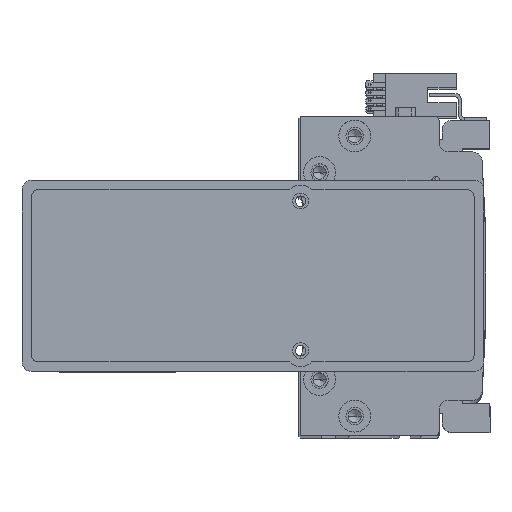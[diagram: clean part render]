
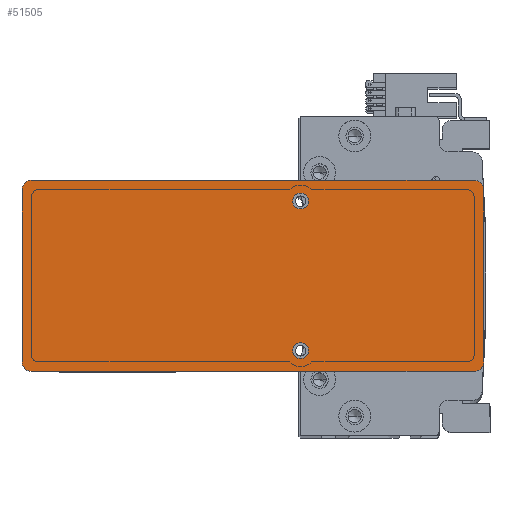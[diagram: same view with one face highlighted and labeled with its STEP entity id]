
A CAD part, top view. The second image highlights one B-rep face of the part: STEP entity #51505.
In plain terms, the highlighted planar face has unit normal (0, 0, 1) as drawn and (0, 0, -1) by its records, which use the part's own axes.
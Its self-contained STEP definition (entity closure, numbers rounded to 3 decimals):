
#186 = ORIENTED_EDGE ( 'NONE', *, *, #9397, .F. ) ;
#715 = AXIS2_PLACEMENT_3D ( 'NONE', #40652, #13973, #45111 ) ;
#2011 = AXIS2_PLACEMENT_3D ( 'NONE', #17797, #48971, #22247 ) ;
#2200 = EDGE_CURVE ( 'NONE', #35249, #51156, #41794, .T. ) ;
#2469 = ORIENTED_EDGE ( 'NONE', *, *, #4462, .T. ) ;
#2510 = LINE ( 'NONE', #43266, #26131 ) ;
#3289 = VECTOR ( 'NONE', #49015, 1000. ) ;
#3662 = ORIENTED_EDGE ( 'NONE', *, *, #34490, .F. ) ;
#3718 = DIRECTION ( 'NONE',  ( 0., 0., -1. ) ) ;
#4400 = CIRCLE ( 'NONE', #5299, 3. ) ;
#4462 = EDGE_CURVE ( 'NONE', #43360, #6292, #9928, .T. ) ;
#5299 = AXIS2_PLACEMENT_3D ( 'NONE', #9667, #40879, #14205 ) ;
#6292 = VERTEX_POINT ( 'NONE', #24271 ) ;
#6695 = EDGE_CURVE ( 'NONE', #40098, #43862, #29925, .T. ) ;
#6718 = DIRECTION ( 'NONE',  ( 0., 0., -1. ) ) ;
#6932 = PLANE ( 'NONE',  #24074 ) ;
#9397 = EDGE_CURVE ( 'NONE', #40098, #6292, #2510, .T. ) ;
#9667 = CARTESIAN_POINT ( 'NONE',  ( -69.5, 27., 0. ) ) ;
#9928 = CIRCLE ( 'NONE', #715, 3. ) ;
#10839 = ORIENTED_EDGE ( 'NONE', *, *, #2200, .F. ) ;
#11197 = VERTEX_POINT ( 'NONE', #23346 ) ;
#11620 = CARTESIAN_POINT ( 'NONE',  ( 0., 0., 0. ) ) ;
#11641 = EDGE_CURVE ( 'NONE', #43407, #39270, #53792, .T. ) ;
#13926 = CARTESIAN_POINT ( 'NONE',  ( 15., -23.5, 0. ) ) ;
#13973 = DIRECTION ( 'NONE',  ( 0., 0., -1. ) ) ;
#14205 = DIRECTION ( 'NONE',  ( 1., 0., 0. ) ) ;
#14368 = EDGE_CURVE ( 'NONE', #11197, #30796, #4400, .T. ) ;
#14919 = EDGE_LOOP ( 'NONE', ( #17707, #10839 ) ) ;
#15500 = CARTESIAN_POINT ( 'NONE',  ( 72.5, -30., 0. ) ) ;
#15664 = DIRECTION ( 'NONE',  ( -1., 0., 0. ) ) ;
#15772 = AXIS2_PLACEMENT_3D ( 'NONE', #30429, #3718, #34878 ) ;
#16084 = DIRECTION ( 'NONE',  ( 1., 0., 0. ) ) ;
#16322 = EDGE_CURVE ( 'NONE', #43360, #30796, #46481, .T. ) ;
#16976 = FACE_BOUND ( 'NONE', #14919, .T. ) ;
#17707 = ORIENTED_EDGE ( 'NONE', *, *, #48686, .F. ) ;
#17797 = CARTESIAN_POINT ( 'NONE',  ( 69.5, -27., 0. ) ) ;
#17828 = CARTESIAN_POINT ( 'NONE',  ( -72.5, -30., 0. ) ) ;
#18390 = DIRECTION ( 'NONE',  ( -1., 0., 0. ) ) ;
#19462 = ORIENTED_EDGE ( 'NONE', *, *, #37691, .F. ) ;
#21748 = AXIS2_PLACEMENT_3D ( 'NONE', #13926, #45064, #18390 ) ;
#21804 = ORIENTED_EDGE ( 'NONE', *, *, #6695, .T. ) ;
#22247 = DIRECTION ( 'NONE',  ( 1., 0., 0. ) ) ;
#22497 = CARTESIAN_POINT ( 'NONE',  ( -69.5, -27., 0. ) ) ;
#23104 = AXIS2_PLACEMENT_3D ( 'NONE', #26519, #57686, #31052 ) ;
#23346 = CARTESIAN_POINT ( 'NONE',  ( -72.5, 27., 0. ) ) ;
#23643 = EDGE_LOOP ( 'NONE', ( #42085, #19462 ) ) ;
#24074 = AXIS2_PLACEMENT_3D ( 'NONE', #11620, #42807, #16084 ) ;
#24265 = DIRECTION ( 'NONE',  ( 1., 0., 0. ) ) ;
#24271 = CARTESIAN_POINT ( 'NONE',  ( 72.5, 27., 0. ) ) ;
#25795 = ORIENTED_EDGE ( 'NONE', *, *, #14368, .T. ) ;
#26131 = VECTOR ( 'NONE', #51011, 1000. ) ;
#26519 = CARTESIAN_POINT ( 'NONE',  ( 15., 23.5, 0. ) ) ;
#26964 = DIRECTION ( 'NONE',  ( 1., 0., 0. ) ) ;
#27149 = VERTEX_POINT ( 'NONE', #37651 ) ;
#28025 = EDGE_CURVE ( 'NONE', #11197, #39270, #37465, .T. ) ;
#28831 = FACE_OUTER_BOUND ( 'NONE', #39266, .T. ) ;
#29758 = CARTESIAN_POINT ( 'NONE',  ( 12.5, 23.5, 0. ) ) ;
#29925 = CIRCLE ( 'NONE', #2011, 3. ) ;
#30402 = VERTEX_POINT ( 'NONE', #55320 ) ;
#30429 = CARTESIAN_POINT ( 'NONE',  ( 15., -23.5, 0. ) ) ;
#30796 = VERTEX_POINT ( 'NONE', #40859 ) ;
#31022 = AXIS2_PLACEMENT_3D ( 'NONE', #42182, #6718, #15664 ) ;
#31052 = DIRECTION ( 'NONE',  ( -1., 0., 0. ) ) ;
#31181 = LINE ( 'NONE', #15500, #53465 ) ;
#34453 = CARTESIAN_POINT ( 'NONE',  ( -69.5, -30., 0. ) ) ;
#34490 = EDGE_CURVE ( 'NONE', #43407, #43862, #31181, .T. ) ;
#34878 = DIRECTION ( 'NONE',  ( -1., 0., 0. ) ) ;
#35249 = VERTEX_POINT ( 'NONE', #52401 ) ;
#37465 = LINE ( 'NONE', #17828, #3289 ) ;
#37487 = ORIENTED_EDGE ( 'NONE', *, *, #28025, .F. ) ;
#37651 = CARTESIAN_POINT ( 'NONE',  ( 12.5, -23.5, 0. ) ) ;
#37691 = EDGE_CURVE ( 'NONE', #30402, #27149, #51897, .T. ) ;
#39266 = EDGE_LOOP ( 'NONE', ( #186, #21804, #3662, #57617, #37487, #25795, #39619, #2469 ) ) ;
#39270 = VERTEX_POINT ( 'NONE', #56951 ) ;
#39619 = ORIENTED_EDGE ( 'NONE', *, *, #16322, .F. ) ;
#40098 = VERTEX_POINT ( 'NONE', #46232 ) ;
#40652 = CARTESIAN_POINT ( 'NONE',  ( 69.5, 27., 0. ) ) ;
#40859 = CARTESIAN_POINT ( 'NONE',  ( -69.5, 30., 0. ) ) ;
#40879 = DIRECTION ( 'NONE',  ( 0., 0., -1. ) ) ;
#41794 = CIRCLE ( 'NONE', #31022, 2.5 ) ;
#42085 = ORIENTED_EDGE ( 'NONE', *, *, #50611, .F. ) ;
#42182 = CARTESIAN_POINT ( 'NONE',  ( 15., 23.5, 0. ) ) ;
#42807 = DIRECTION ( 'NONE',  ( 0., 0., 1. ) ) ;
#43126 = CIRCLE ( 'NONE', #23104, 2.5 ) ;
#43266 = CARTESIAN_POINT ( 'NONE',  ( 72.5, -30., 0. ) ) ;
#43360 = VERTEX_POINT ( 'NONE', #51981 ) ;
#43407 = VERTEX_POINT ( 'NONE', #34453 ) ;
#43862 = VERTEX_POINT ( 'NONE', #55600 ) ;
#44139 = AXIS2_PLACEMENT_3D ( 'NONE', #22497, #53664, #26964 ) ;
#45064 = DIRECTION ( 'NONE',  ( 0., 0., -1. ) ) ;
#45111 = DIRECTION ( 'NONE',  ( 1., 0., 0. ) ) ;
#46232 = CARTESIAN_POINT ( 'NONE',  ( 72.5, -27., 0. ) ) ;
#46481 = LINE ( 'NONE', #55700, #55478 ) ;
#46839 = CIRCLE ( 'NONE', #15772, 2.5 ) ;
#48686 = EDGE_CURVE ( 'NONE', #51156, #35249, #43126, .T. ) ;
#48971 = DIRECTION ( 'NONE',  ( 0., 0., -1. ) ) ;
#49015 = DIRECTION ( 'NONE',  ( 0., -1., 0. ) ) ;
#50611 = EDGE_CURVE ( 'NONE', #27149, #30402, #46839, .T. ) ;
#51011 = DIRECTION ( 'NONE',  ( 0., 1., 0. ) ) ;
#51115 = FACE_BOUND ( 'NONE', #23643, .T. ) ;
#51156 = VERTEX_POINT ( 'NONE', #29758 ) ;
#51242 = DIRECTION ( 'NONE',  ( -1., 0., 0. ) ) ;
#51505 = ADVANCED_FACE ( 'NONE', ( #16976, #51115, #28831 ), #6932, .F. ) ;
#51897 = CIRCLE ( 'NONE', #21748, 2.5 ) ;
#51981 = CARTESIAN_POINT ( 'NONE',  ( 69.5, 30., 0. ) ) ;
#52401 = CARTESIAN_POINT ( 'NONE',  ( 17.5, 23.5, 0. ) ) ;
#53465 = VECTOR ( 'NONE', #24265, 1000. ) ;
#53664 = DIRECTION ( 'NONE',  ( 0., 0., -1. ) ) ;
#53792 = CIRCLE ( 'NONE', #44139, 3. ) ;
#55320 = CARTESIAN_POINT ( 'NONE',  ( 17.5, -23.5, 0. ) ) ;
#55478 = VECTOR ( 'NONE', #51242, 1000. ) ;
#55600 = CARTESIAN_POINT ( 'NONE',  ( 69.5, -30., 0. ) ) ;
#55700 = CARTESIAN_POINT ( 'NONE',  ( 72.5, 30., 0. ) ) ;
#56951 = CARTESIAN_POINT ( 'NONE',  ( -72.5, -27., 0. ) ) ;
#57617 = ORIENTED_EDGE ( 'NONE', *, *, #11641, .T. ) ;
#57686 = DIRECTION ( 'NONE',  ( 0., 0., -1. ) ) ;
